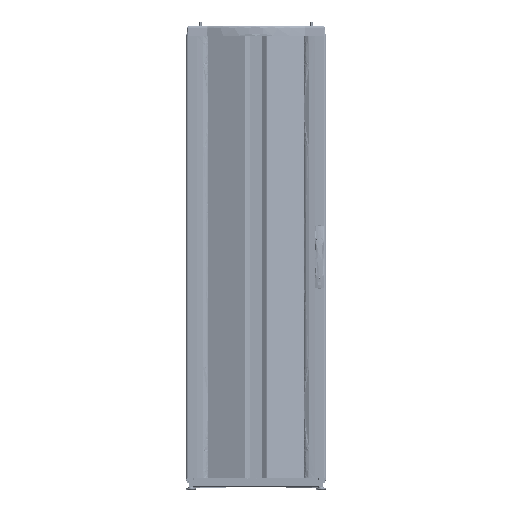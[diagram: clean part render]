
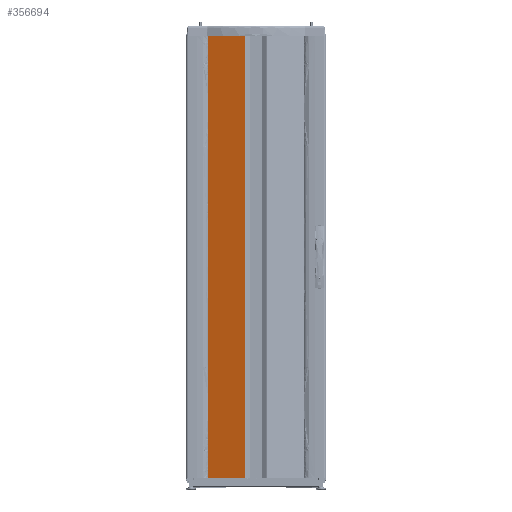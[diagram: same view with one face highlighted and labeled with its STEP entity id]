
A CAD part, top view. The second image highlights one B-rep face of the part: STEP entity #356694.
In plain terms, the highlighted planar face has unit normal (-0.342, 0, 0.94) as drawn and (-0.342, 0, -0.94) by its records, which use the part's own axes.
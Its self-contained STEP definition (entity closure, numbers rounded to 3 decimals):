
#22810 = VERTEX_POINT ( 'NONE', #232312 ) ;
#22817 = VERTEX_POINT ( 'NONE', #232321 ) ;
#22823 = VERTEX_POINT ( 'NONE', #232325 ) ;
#22827 = VERTEX_POINT ( 'NONE', #232331 ) ;
#55927 = FACE_OUTER_BOUND ( 'NONE', #420577, .T. ) ;
#153677 = PLANE ( 'NONE',  #362151 ) ;
#153686 = CARTESIAN_POINT ( 'NONE',  ( -46.925, 948.385, -14.46 ) ) ;
#153700 = DIRECTION ( 'NONE',  ( -0.342, 0., -0.94 ) ) ;
#153702 = DIRECTION ( 'NONE',  ( 0.94, 0., -0.342 ) ) ;
#232312 = CARTESIAN_POINT ( 'NONE',  ( -47.671, 948.385, -14.189 ) ) ;
#232321 = CARTESIAN_POINT ( 'NONE',  ( -216.614, 948.385, 47.301 ) ) ;
#232325 = CARTESIAN_POINT ( 'NONE',  ( -47.671, -948.385, -14.189 ) ) ;
#232331 = CARTESIAN_POINT ( 'NONE',  ( -216.614, -948.385, 47.301 ) ) ;
#299347 = EDGE_CURVE ( 'NONE', #22823, #22827, #413706, .T. ) ;
#299373 = EDGE_CURVE ( 'NONE', #22817, #22827, #413718, .T. ) ;
#299392 = EDGE_CURVE ( 'NONE', #22817, #22810, #413724, .T. ) ;
#299405 = EDGE_CURVE ( 'NONE', #22810, #22823, #413734, .T. ) ;
#356694 = ADVANCED_FACE ( 'NONE', ( #55927 ), #153677, .T. ) ;
#362151 = AXIS2_PLACEMENT_3D ( 'NONE', #153686, #153700, #153702 ) ;
#413706 = LINE ( 'NONE', #415008, #413707 ) ;
#413707 = VECTOR ( 'NONE', #415010, 1000. ) ;
#413718 = LINE ( 'NONE', #415047, #413719 ) ;
#413719 = VECTOR ( 'NONE', #415048, 1000. ) ;
#413724 = LINE ( 'NONE', #415075, #413729 ) ;
#413729 = VECTOR ( 'NONE', #415077, 1000. ) ;
#413731 = VECTOR ( 'NONE', #415096, 1000. ) ;
#413734 = LINE ( 'NONE', #415094, #413731 ) ;
#415008 = CARTESIAN_POINT ( 'NONE',  ( -216.867, -948.385, 47.393 ) ) ;
#415010 = DIRECTION ( 'NONE',  ( -0.94, 0., 0.342 ) ) ;
#415047 = CARTESIAN_POINT ( 'NONE',  ( -216.614, 948.385, 47.301 ) ) ;
#415048 = DIRECTION ( 'NONE',  ( 0., -1., 0. ) ) ;
#415075 = CARTESIAN_POINT ( 'NONE',  ( -46.925, 948.385, -14.46 ) ) ;
#415077 = DIRECTION ( 'NONE',  ( 0.94, 0., -0.342 ) ) ;
#415094 = CARTESIAN_POINT ( 'NONE',  ( -47.671, 948.385, -14.189 ) ) ;
#415096 = DIRECTION ( 'NONE',  ( 0., -1., 0. ) ) ;
#417229 = ORIENTED_EDGE ( 'NONE', *, *, #299347, .T. ) ;
#417234 = ORIENTED_EDGE ( 'NONE', *, *, #299373, .F. ) ;
#417238 = ORIENTED_EDGE ( 'NONE', *, *, #299392, .T. ) ;
#417241 = ORIENTED_EDGE ( 'NONE', *, *, #299405, .T. ) ;
#420577 = EDGE_LOOP ( 'NONE', ( #417229, #417234, #417238, #417241 ) ) ;
